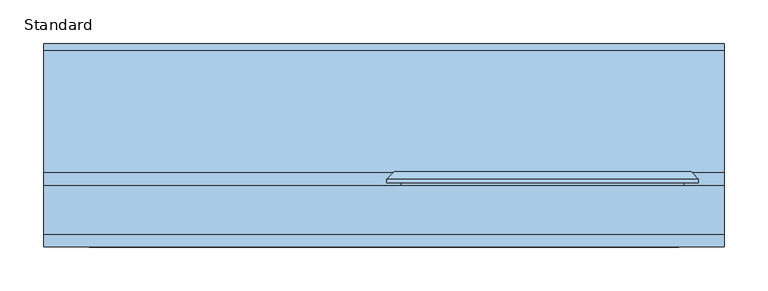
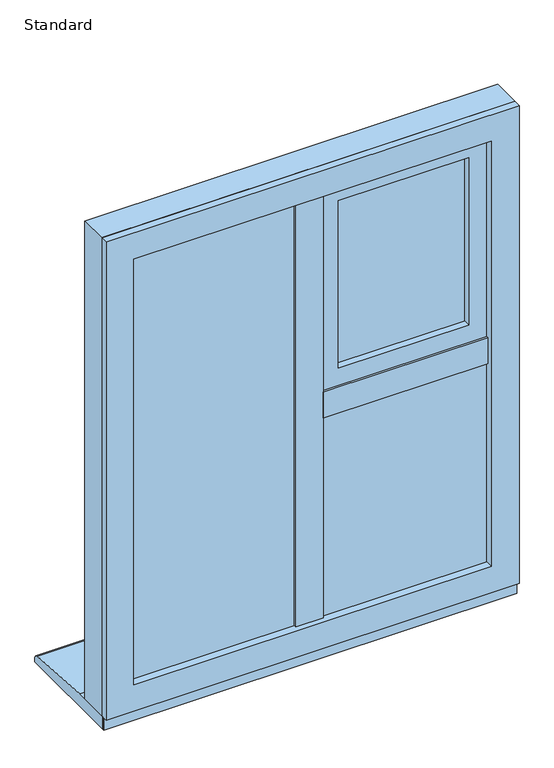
"""IFC4 building model written with IfcOpenShell, lengths in millimetres: window geometry, SMARTS_Alitherm600 : Standard."""

from ifc_helpers import new_model, si_unit, point, frame, frame_2d, origin, place, context, project, spatial, polyline, circle_curve, trimmed, segment, composite_curve, outline, extrude, faceted_brep, source, transform, mapped, element, save


def standard_076794af(model_context):
    return source(origin(), model_context, "Body", "SolidModel", [
        extrude(outline(polyline([(-9.4, 102.8298432), (9.4, 102.8298432), (9.4, 47.2458572), (-9.4, 47.2458572), (-9.4, 102.8298432)])), frame((0.0, 0.0, 670.8979117), z_axis=(0.0, 0.0, 1.0), x_axis=(1.0, 0.0, 0.0)), (0.0, 0.0, 1.0), 883.2041766),
        extrude(outline(polyline([(-25.9020883, 47.2458572), (25.9020883, 47.2458572), (25.9020883, 43.2798432), (-25.9020883, 43.2798432), (-25.9020883, 47.2458572)])), frame((0.0, 0.0, 687.4), z_axis=(0.0, 0.0, 1.0), x_axis=(1.0, 0.0, 0.0)), (0.0, 0.0, 1.0), 850.2),
        extrude(outline(polyline([(354.1020883, 102.8298432), (354.1020883, 47.2458572), (9.4979117, 47.2458572), (9.4979117, 102.8298432), (354.1020883, 102.8298432)])), frame((0.0, 0.0, 1103.1), z_axis=(0.0, 0.0, 1.0), x_axis=(1.0, 0.0, 0.0)), (0.0, 0.0, 1.0), 18.8),
        extrude(outline(polyline([(337.6, 47.2458572), (337.6, 43.2798432), (26.0, 43.2798432), (26.0, 47.2458572), (337.6, 47.2458572)])), frame((0.0, 0.0, 1086.5979117), z_axis=(0.0, 0.0, 1.0), x_axis=(1.0, 0.0, 0.0)), (0.0, 0.0, 1.0), 51.8041766),
        extrude(outline(polyline([(-352.6, 77.7798432), (-11.0, 77.7798432), (-11.0, 73.7798432), (-352.6, 73.7798432), (-352.6, 77.7798432)])), frame((0.0, 0.0, 672.4), z_axis=(0.0, 0.0, 1.0), x_axis=(1.0, 0.0, 0.0)), (0.0, 0.0, 1.0), 880.2),
        extrude(outline(polyline([(-352.6, 57.7798432), (-11.0, 57.7798432), (-11.0, 53.7798432), (-352.6, 53.7798432), (-352.6, 57.7798432)])), frame((0.0, 0.0, 672.4), z_axis=(0.0, 0.0, 1.0), x_axis=(1.0, 0.0, 0.0)), (0.0, 0.0, 1.0), 880.2),
        extrude(outline(polyline([(1552.6, -352.6), (672.4, -352.6), (672.4, -11.0), (1552.6, -11.0), (1552.6, -352.6)]), holes=[polyline([(1542.6, -21.0), (682.4, -21.0), (682.4, -342.6), (1542.6, -342.6), (1542.6, -21.0)])]), frame((0.0, 57.7798432, 0.0), z_axis=(0.0, 1.0, 0.0), x_axis=(0.0, 0.0, 1.0)), (0.0, 0.0, 1.0), 16.0),
        faceted_brep([(-349.4160653, 102.7798432, 1549.4160653), (-337.2339746, 81.6798432, 1537.2339746), (-337.2339746, 81.6798432, 687.7660254), (-349.4160653, 102.7798432, 675.5839347), (-26.3660254, 81.6798432, 687.7660254), (-14.1839347, 102.7798432, 675.5839347), (-26.3660254, 81.6798432, 1537.2339746), (-14.1839347, 102.7798432, 1549.4160653), (-9.5, 81.6798432, 1554.1), (-9.5, 102.7798432, 1554.1), (-354.1, 102.7798432, 1554.1), (-354.1, 81.6798432, 1554.1), (-354.1, 102.7798432, 670.9), (-354.1, 81.6798432, 670.9), (-9.5, 102.7798432, 670.9), (-9.5, 81.6798432, 670.9)], [[[0, 1, 2, 3]], [[3, 2, 4, 5]], [[5, 4, 6, 7]], [[7, 6, 1, 0]], [[8, 9, 10, 11]], [[11, 10, 12, 13]], [[13, 12, 14, 15]], [[9, 14, 12, 10], [0, 3, 5, 7]], [[15, 14, 9, 8]], [[11, 13, 15, 8], [6, 4, 2, 1]]]),
        extrude(outline(polyline([(11.0, 77.7798432), (352.6, 77.7798432), (352.6, 73.7798432), (11.0, 73.7798432), (11.0, 77.7798432)])), frame((0.0, 0.0, 672.4), z_axis=(0.0, 0.0, 1.0), x_axis=(1.0, 0.0, 0.0)), (0.0, 0.0, 1.0), 429.1),
        extrude(outline(polyline([(11.0, 57.7798432), (352.6, 57.7798432), (352.6, 53.7798432), (11.0, 53.7798432), (11.0, 57.7798432)])), frame((0.0, 0.0, 672.4), z_axis=(0.0, 0.0, 1.0), x_axis=(1.0, 0.0, 0.0)), (0.0, 0.0, 1.0), 429.1),
        extrude(outline(polyline([(1101.5, 11.0), (672.4, 11.0), (672.4, 352.6), (1101.5, 352.6), (1101.5, 11.0)]), holes=[polyline([(1091.5, 342.6), (682.4, 342.6), (682.4, 21.0), (1091.5, 21.0), (1091.5, 342.6)])]), frame((0.0, 57.7798432, 0.0), z_axis=(0.0, 1.0, 0.0), x_axis=(0.0, 0.0, 1.0)), (0.0, 0.0, 1.0), 16.0),
        faceted_brep([(14.1839347, 102.7798432, 1098.3160653), (26.3660254, 81.6798432, 1086.1339746), (26.3660254, 81.6798432, 687.7660254), (14.1839347, 102.7798432, 675.5839347), (337.2339746, 81.6798432, 687.7660254), (349.4160653, 102.7798432, 675.5839347), (337.2339746, 81.6798432, 1086.1339746), (349.4160653, 102.7798432, 1098.3160653), (354.1, 81.6798432, 1103.0), (354.1, 102.7798432, 1103.0), (9.5, 102.7798432, 1103.0), (9.5, 81.6798432, 1103.0), (9.5, 102.7798432, 670.9), (9.5, 81.6798432, 670.9), (354.1, 102.7798432, 670.9), (354.1, 81.6798432, 670.9)], [[[0, 1, 2, 3]], [[3, 2, 4, 5]], [[5, 4, 6, 7]], [[7, 6, 1, 0]], [[8, 9, 10, 11]], [[11, 10, 12, 13]], [[13, 12, 14, 15]], [[9, 14, 12, 10], [0, 3, 5, 7]], [[15, 14, 9, 8]], [[11, 13, 15, 8], [6, 4, 2, 1]]]),
        extrude(outline(polyline([(1590.0, 390.0), (1590.0, -390.0), (635.0, -390.0), (635.0, 390.0), (1590.0, 390.0)]), holes=[polyline([(670.85, 354.15), (670.85, -354.15), (1554.15, -354.15), (1554.15, 354.15), (670.85, 354.15)])]), frame((0.0, 47.2798427, 0.0), z_axis=(0.0, 1.0, 0.0), x_axis=(0.0, 0.0, 1.0)), (0.0, 0.0, 1.0), 55.5500006),
        extrude(outline(polyline([(1590.0, 390.0), (1590.0, -390.0), (635.0, -390.0), (635.0, 390.0), (1590.0, 390.0)]), holes=[polyline([(687.35, 337.65), (687.35, -337.65), (1537.65, -337.65), (1537.65, 337.65), (687.35, 337.65)])]), frame((0.0, 32.8298432, 0.0), z_axis=(0.0, 1.0, 0.0), x_axis=(0.0, 0.0, 1.0)), (0.0, 0.0, 1.0), 14.4499994),
        extrude(outline(polyline([(1516.6, 47.0), (1159.5, 47.0), (1159.5, 316.6), (1516.6, 316.6), (1516.6, 47.0)]), holes=[polyline([(1506.6, 306.6), (1169.5, 306.6), (1169.5, 57.0), (1506.6, 57.0), (1506.6, 306.6)])]), frame((0.0, 72.3211351, 0.0), z_axis=(0.0, 1.0, 0.0), x_axis=(0.0, 0.0, 1.0)), (0.0, 0.0, 1.0), 16.0),
        extrude(outline(polyline([(47.0, 92.3211351), (316.6, 92.3211351), (316.6, 88.3211351), (47.0, 88.3211351), (47.0, 92.3211351)])), frame((0.0, 0.0, 1159.5), z_axis=(0.0, 0.0, 1.0), x_axis=(1.0, 0.0, 0.0)), (0.0, 0.0, 1.0), 357.1),
        extrude(outline(polyline([(47.0, 72.3211351), (316.6, 72.3211351), (316.6, 68.3211351), (47.0, 68.3211351), (47.0, 72.3211351)])), frame((0.0, 0.0, 1159.5), z_axis=(0.0, 0.0, 1.0), x_axis=(1.0, 0.0, 0.0)), (0.0, 0.0, 1.0), 357.1),
        faceted_brep([(316.9221147, 118.8818325, 1516.9221147), (304.740024, 97.7818325, 1504.740024), (58.859976, 97.7818325, 1504.740024), (46.6778853, 118.8818325, 1516.9221147), (321.6060494, 97.7818325, 1521.6060494), (321.6060494, 118.8818325, 1521.6060494), (41.9939506, 118.8818325, 1521.6060494), (41.9939506, 97.7818325, 1521.6060494), (58.859976, 97.7818325, 1171.359976), (46.6778853, 118.8818325, 1159.1778853), (41.9939506, 118.8818325, 1154.4939506), (41.9939506, 97.7818325, 1154.4939506), (304.740024, 97.7818325, 1171.359976), (316.9221147, 118.8818325, 1159.1778853), (321.6060494, 118.8818325, 1154.4939506), (321.6060494, 97.7818325, 1154.4939506)], [[[0, 1, 2, 3]], [[4, 5, 6, 7]], [[3, 2, 8, 9]], [[7, 6, 10, 11]], [[9, 8, 12, 13]], [[11, 10, 14, 15]], [[13, 12, 1, 0]], [[5, 14, 10, 6], [3, 9, 13, 0]], [[15, 14, 5, 4]], [[7, 11, 15, 4], [1, 12, 8, 2]]]),
        extrude(outline(polyline([(1132.652908, 20.152908), (1132.652908, 343.447092), (1543.447092, 343.447092), (1543.447092, 20.152908), (1132.652908, 20.152908)]), holes=[polyline([(1505.1, 58.5), (1505.1, 305.1), (1171.0, 305.1), (1171.0, 58.5), (1505.1, 58.5)])]), frame((0.0, 50.2798432, 0.0), z_axis=(0.0, 1.0, 0.0), x_axis=(0.0, 0.0, 1.0)), (0.0, 0.0, 1.0), 13.0853156),
        faceted_brep([(41.9939506, 118.8818325, 1521.6060494), (41.9939506, 63.3651588, 1521.6060494), (41.9939506, 63.3651588, 1154.4939506), (41.9939506, 118.8818325, 1154.4939506), (321.6060494, 63.3651588, 1154.4939506), (321.6060494, 118.8818325, 1154.4939506), (321.6060494, 63.3651588, 1521.6060494), (321.6060494, 118.8818325, 1521.6060494), (3.2641012, 106.2818325, 1560.3358988), (3.2641012, 110.3519831, 1560.3358988), (3.2641012, 110.3519831, 1115.7641012), (3.2641012, 106.2818325, 1115.7641012), (360.3358988, 110.3519831, 1115.7641012), (360.3358988, 106.2818325, 1115.7641012), (360.3358988, 110.3519831, 1560.3358988), (360.3358988, 106.2818325, 1560.3358988), (19.8532343, 106.2818325, 1543.7467657), (343.7467657, 106.2818325, 1543.7467657), (343.7467657, 106.2818325, 1132.3532343), (19.8532343, 106.2818325, 1132.3532343), (11.7939506, 118.8818325, 1551.8060494), (351.8060494, 118.8818325, 1551.8060494), (351.8060494, 118.8818325, 1124.2939506), (11.7939506, 118.8818325, 1124.2939506), (19.8532343, 63.3651588, 1543.7467657), (19.8532343, 63.3651588, 1132.3532343), (343.7467657, 63.3651588, 1132.3532343), (343.7467657, 63.3651588, 1543.7467657)], [[[0, 1, 2, 3]], [[3, 2, 4, 5]], [[5, 4, 6, 7]], [[7, 6, 1, 0]], [[8, 9, 10, 11]], [[11, 10, 12, 13]], [[13, 12, 14, 15]], [[11, 13, 15, 8], [16, 17, 18, 19]], [[15, 14, 9, 8]], [[20, 21, 22, 23], [3, 5, 7, 0]], [[24, 16, 19, 25]], [[25, 19, 18, 26]], [[26, 18, 17, 27]], [[25, 26, 27, 24], [1, 6, 4, 2]], [[27, 17, 16, 24]], [[9, 20, 23, 10]], [[10, 23, 22, 12]], [[12, 22, 21, 14]], [[14, 21, 20, 9]]]),
        extrude(outline(polyline([(390.0, 43.2798432), (390.0, 40.7798432), (-390.0, 40.7798432), (-390.0, 43.2798432), (390.0, 43.2798432)])), frame((0.0, 0.0, 610.0), z_axis=(0.0, 0.0, 1.0), x_axis=(1.0, 0.0, 0.0)), (0.0, 0.0, 1.0), 31.0),
        extrude(outline(composite_curve([segment(polyline([(265.7798432, 610.0), (43.2798432, 610.0), (43.2798432, 635.0), (118.7798432, 635.0), (258.4770891, 625.9276664)]), True, "CONTINUOUS"), segment(trimmed(circle_curve(frame_2d((257.7798432, 617.9581088)), 8.0), [point((258.4770891, 625.9276664))], [point((265.7798432, 617.9581088))], False, "CARTESIAN"), True, "CONTINUOUS"), segment(polyline([(265.7798432, 617.9581088), (265.7798432, 610.0)]), True, "CONTINUOUS")], self_intersect=False)), frame((-390.0, 0.0, 0.0), z_axis=(1.0, 0.0, 0.0), x_axis=(0.0, 1.0, 0.0)), (0.0, 0.0, 1.0), 780.0),
    ])


if __name__ == "__main__":
    model = new_model("IFC4")
    model_context = context("Model", 3, world=origin())
    ifc_project = project(units=[si_unit("LENGTHUNIT", "METRE", prefix="MILLI")], contexts=[model_context])
    site = spatial("IfcSite", under=ifc_project)
    building = spatial("IfcBuilding", under=site)
    placement = place(None, origin())
    standard_shape = standard_076794af(model_context)
    element("IfcWindow", 1, ObjectType="SMARTS_Alitherm600 : Standard", at=placement, inside=building, context=model_context, shape_type="MappedRepresentation", body=[
        mapped(standard_shape, transform((0.0, 0.0, 0.0), x_axis=(1.0, 0.0, 0.0), y_axis=(0.0, 1.0, 0.0), z_axis=(0.0, 0.0, 1.0))),
    ])
    save(model, "model.ifc")
